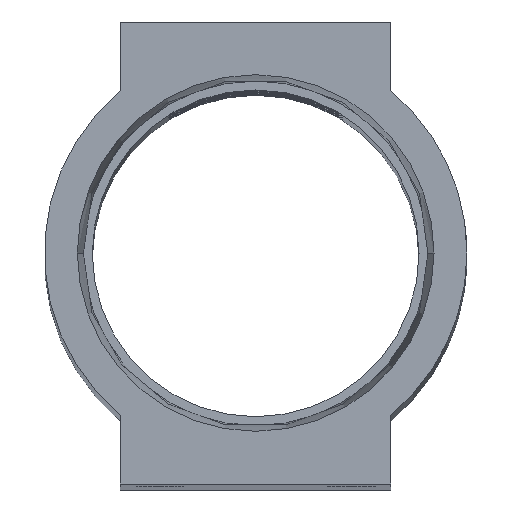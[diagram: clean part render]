
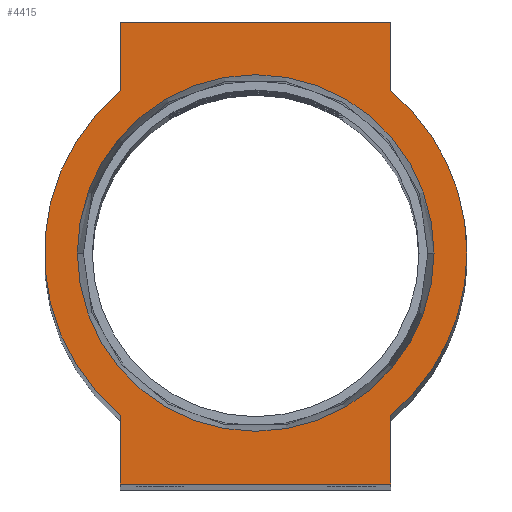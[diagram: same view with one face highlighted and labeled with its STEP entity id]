
A CAD part, top view. The second image highlights one B-rep face of the part: STEP entity #4415.
In plain terms, the highlighted planar face has unit normal (0, 0, 1).
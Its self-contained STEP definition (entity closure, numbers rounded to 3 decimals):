
#64 = CARTESIAN_POINT ( 'NONE',  ( 12., -20.5, 0. ) ) ;
#163 = CIRCLE ( 'NONE', #4349, 18.75 ) ;
#406 = VERTEX_POINT ( 'NONE', #4184 ) ;
#461 = ORIENTED_EDGE ( 'NONE', *, *, #11309, .T. ) ;
#543 = DIRECTION ( 'NONE',  ( 0., 1., 0. ) ) ;
#911 = CIRCLE ( 'NONE', #8244, 18.75 ) ;
#948 = EDGE_CURVE ( 'NONE', #11128, #11126, #1245, .T. ) ;
#1232 = CARTESIAN_POINT ( 'NONE',  ( 0., 0., 0. ) ) ;
#1245 = LINE ( 'NONE', #5273, #8484 ) ;
#1262 = CARTESIAN_POINT ( 'NONE',  ( -12., -20.5, 0. ) ) ;
#1371 = CARTESIAN_POINT ( 'NONE',  ( -12., 20.5, 0. ) ) ;
#1634 = CIRCLE ( 'NONE', #9630, 15.827 ) ;
#1737 = DIRECTION ( 'NONE',  ( 0., 1., 0. ) ) ;
#1773 = CARTESIAN_POINT ( 'NONE',  ( -12., 20.5, 0. ) ) ;
#2001 = ORIENTED_EDGE ( 'NONE', *, *, #948, .T. ) ;
#2139 = CARTESIAN_POINT ( 'NONE',  ( 0., 0., 0. ) ) ;
#2202 = ORIENTED_EDGE ( 'NONE', *, *, #6707, .T. ) ;
#2284 = ORIENTED_EDGE ( 'NONE', *, *, #11577, .T. ) ;
#2301 = VERTEX_POINT ( 'NONE', #9178 ) ;
#2703 = EDGE_CURVE ( 'NONE', #8075, #11128, #911, .T. ) ;
#2771 = LINE ( 'NONE', #1773, #12034 ) ;
#2881 = ORIENTED_EDGE ( 'NONE', *, *, #4600, .T. ) ;
#3122 = VECTOR ( 'NONE', #5401, 1000. ) ;
#3143 = CARTESIAN_POINT ( 'NONE',  ( 12., 14.407, 0. ) ) ;
#3211 = DIRECTION ( 'NONE',  ( 0., 0., 1. ) ) ;
#3267 = ORIENTED_EDGE ( 'NONE', *, *, #3769, .F. ) ;
#3339 = DIRECTION ( 'NONE',  ( 1., 0., 0. ) ) ;
#3673 = DIRECTION ( 'NONE',  ( 0., -1., 0. ) ) ;
#3769 = EDGE_CURVE ( 'NONE', #8141, #10374, #10455, .T. ) ;
#3898 = AXIS2_PLACEMENT_3D ( 'NONE', #10136, #9071, #7091 ) ;
#3985 = DIRECTION ( 'NONE',  ( 1., 0., 0. ) ) ;
#4184 = CARTESIAN_POINT ( 'NONE',  ( 18.75, 0., 0. ) ) ;
#4349 = AXIS2_PLACEMENT_3D ( 'NONE', #7183, #9231, #10165 ) ;
#4415 = ADVANCED_FACE ( 'NONE', ( #12267, #11401 ), #11467, .T. ) ;
#4600 = EDGE_CURVE ( 'NONE', #9695, #2301, #10923, .T. ) ;
#4883 = CARTESIAN_POINT ( 'NONE',  ( 15.827, 0., 0. ) ) ;
#4996 = EDGE_CURVE ( 'NONE', #6736, #12319, #6568, .T. ) ;
#5178 = CIRCLE ( 'NONE', #3898, 18.75 ) ;
#5273 = CARTESIAN_POINT ( 'NONE',  ( -12., -20.5, 0. ) ) ;
#5401 = DIRECTION ( 'NONE',  ( -1., 0., 0. ) ) ;
#5449 = DIRECTION ( 'NONE',  ( 0., 0., 1. ) ) ;
#5587 = ORIENTED_EDGE ( 'NONE', *, *, #12818, .T. ) ;
#5710 = EDGE_LOOP ( 'NONE', ( #3267, #6653 ) ) ;
#5790 = DIRECTION ( 'NONE',  ( 0., -1., 0. ) ) ;
#6160 = ORIENTED_EDGE ( 'NONE', *, *, #11215, .T. ) ;
#6292 = DIRECTION ( 'NONE',  ( 1., 0., 0. ) ) ;
#6299 = CARTESIAN_POINT ( 'NONE',  ( 0., 0., 0. ) ) ;
#6495 = CARTESIAN_POINT ( 'NONE',  ( -15.827, 0., 0. ) ) ;
#6568 = LINE ( 'NONE', #1371, #3122 ) ;
#6584 = LINE ( 'NONE', #7524, #8966 ) ;
#6653 = ORIENTED_EDGE ( 'NONE', *, *, #11998, .F. ) ;
#6707 = EDGE_CURVE ( 'NONE', #12319, #8075, #2771, .T. ) ;
#6736 = VERTEX_POINT ( 'NONE', #9215 ) ;
#6900 = VECTOR ( 'NONE', #1737, 1000. ) ;
#7091 = DIRECTION ( 'NONE',  ( 1., 0., 0. ) ) ;
#7156 = ORIENTED_EDGE ( 'NONE', *, *, #4996, .T. ) ;
#7183 = CARTESIAN_POINT ( 'NONE',  ( 0., 0., 0. ) ) ;
#7447 = CARTESIAN_POINT ( 'NONE',  ( -12., -14.407, 0. ) ) ;
#7524 = CARTESIAN_POINT ( 'NONE',  ( 12., 20.5, 0. ) ) ;
#7556 = DIRECTION ( 'NONE',  ( 1., 0., 0. ) ) ;
#7996 = CARTESIAN_POINT ( 'NONE',  ( -12., 20.5, 0. ) ) ;
#8075 = VERTEX_POINT ( 'NONE', #11755 ) ;
#8121 = VECTOR ( 'NONE', #6292, 1000. ) ;
#8141 = VERTEX_POINT ( 'NONE', #4883 ) ;
#8244 = AXIS2_PLACEMENT_3D ( 'NONE', #10533, #10661, #7556 ) ;
#8484 = VECTOR ( 'NONE', #3673, 1000. ) ;
#8780 = AXIS2_PLACEMENT_3D ( 'NONE', #6299, #3211, #3339 ) ;
#8849 = CARTESIAN_POINT ( 'NONE',  ( 12., -20.5, 0. ) ) ;
#8966 = VECTOR ( 'NONE', #543, 1000. ) ;
#8992 = DIRECTION ( 'NONE',  ( 0., 0., 1. ) ) ;
#9018 = VERTEX_POINT ( 'NONE', #3143 ) ;
#9071 = DIRECTION ( 'NONE',  ( 0., 0., 1. ) ) ;
#9178 = CARTESIAN_POINT ( 'NONE',  ( 12., -14.407, 0. ) ) ;
#9215 = CARTESIAN_POINT ( 'NONE',  ( 12., 20.5, 0. ) ) ;
#9231 = DIRECTION ( 'NONE',  ( 0., 0., 1. ) ) ;
#9630 = AXIS2_PLACEMENT_3D ( 'NONE', #2139, #8992, #3985 ) ;
#9695 = VERTEX_POINT ( 'NONE', #64 ) ;
#10136 = CARTESIAN_POINT ( 'NONE',  ( 0., 0., 0. ) ) ;
#10165 = DIRECTION ( 'NONE',  ( 1., 0., 0. ) ) ;
#10374 = VERTEX_POINT ( 'NONE', #6495 ) ;
#10455 = CIRCLE ( 'NONE', #12155, 15.827 ) ;
#10533 = CARTESIAN_POINT ( 'NONE',  ( 0., 0., 0. ) ) ;
#10661 = DIRECTION ( 'NONE',  ( 0., 0., 1. ) ) ;
#10823 = EDGE_LOOP ( 'NONE', ( #6160, #7156, #2202, #12887, #2001, #461, #2881, #2284, #5587 ) ) ;
#10923 = LINE ( 'NONE', #8849, #6900 ) ;
#11126 = VERTEX_POINT ( 'NONE', #1262 ) ;
#11128 = VERTEX_POINT ( 'NONE', #7447 ) ;
#11215 = EDGE_CURVE ( 'NONE', #9018, #6736, #6584, .T. ) ;
#11309 = EDGE_CURVE ( 'NONE', #11126, #9695, #11331, .T. ) ;
#11331 = LINE ( 'NONE', #12130, #8121 ) ;
#11401 = FACE_OUTER_BOUND ( 'NONE', #10823, .T. ) ;
#11464 = DIRECTION ( 'NONE',  ( 1., 0., 0. ) ) ;
#11467 = PLANE ( 'NONE',  #8780 ) ;
#11577 = EDGE_CURVE ( 'NONE', #2301, #406, #163, .T. ) ;
#11755 = CARTESIAN_POINT ( 'NONE',  ( -12., 14.407, 0. ) ) ;
#11998 = EDGE_CURVE ( 'NONE', #10374, #8141, #1634, .T. ) ;
#12034 = VECTOR ( 'NONE', #5790, 1000. ) ;
#12130 = CARTESIAN_POINT ( 'NONE',  ( -12., -20.5, 0. ) ) ;
#12155 = AXIS2_PLACEMENT_3D ( 'NONE', #1232, #5449, #11464 ) ;
#12267 = FACE_BOUND ( 'NONE', #5710, .T. ) ;
#12319 = VERTEX_POINT ( 'NONE', #7996 ) ;
#12818 = EDGE_CURVE ( 'NONE', #406, #9018, #5178, .T. ) ;
#12887 = ORIENTED_EDGE ( 'NONE', *, *, #2703, .T. ) ;
